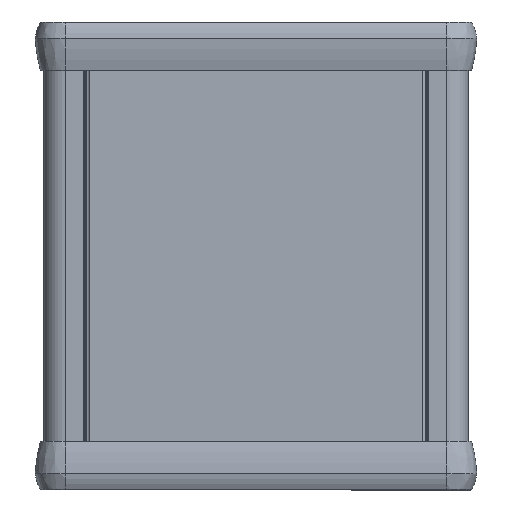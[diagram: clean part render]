
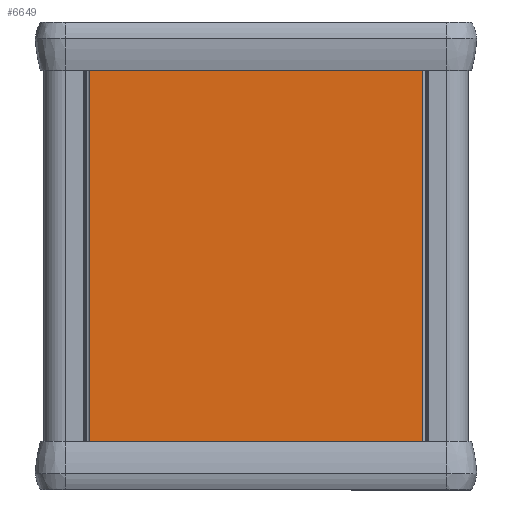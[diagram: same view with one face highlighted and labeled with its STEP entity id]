
A CAD part, front view. The second image highlights one B-rep face of the part: STEP entity #6649.
In plain terms, the highlighted planar face has unit normal (0, -1, 0).
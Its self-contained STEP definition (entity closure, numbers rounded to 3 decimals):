
#221=PLANE('',#7466);
#495=FACE_OUTER_BOUND('',#855,.T.);
#855=EDGE_LOOP('',(#5544,#5545,#5546,#5547));
#1353=LINE('',#11246,#1892);
#1381=LINE('',#11323,#1920);
#1382=LINE('',#11326,#1921);
#1383=LINE('',#11327,#1922);
#1892=VECTOR('',#9124,10.);
#1920=VECTOR('',#9208,10.);
#1921=VECTOR('',#9211,10.);
#1922=VECTOR('',#9212,10.);
#2978=VERTEX_POINT('',#11243);
#2979=VERTEX_POINT('',#11245);
#3000=VERTEX_POINT('',#11321);
#3001=VERTEX_POINT('',#11325);
#3843=EDGE_CURVE('',#2979,#2978,#1353,.T.);
#3882=EDGE_CURVE('',#3000,#2978,#1381,.T.);
#3883=EDGE_CURVE('',#3000,#3001,#1382,.T.);
#3884=EDGE_CURVE('',#3001,#2979,#1383,.T.);
#5544=ORIENTED_EDGE('',*,*,#3883,.T.);
#5545=ORIENTED_EDGE('',*,*,#3884,.T.);
#5546=ORIENTED_EDGE('',*,*,#3843,.T.);
#5547=ORIENTED_EDGE('',*,*,#3882,.F.);
#6649=ADVANCED_FACE('',(#495),#221,.T.);
#7466=AXIS2_PLACEMENT_3D('',#11324,#9209,#9210);
#9124=DIRECTION('',(1.,0.,0.));
#9208=DIRECTION('',(0.,0.,-1.));
#9209=DIRECTION('center_axis',(0.,-1.,0.));
#9210=DIRECTION('ref_axis',(0.,0.,-1.));
#9211=DIRECTION('',(-1.,0.,0.));
#9212=DIRECTION('',(0.,0.,-1.));
#11243=CARTESIAN_POINT('',(30.515,0.,-40.));
#11245=CARTESIAN_POINT('',(-30.515,0.,-40.));
#11246=CARTESIAN_POINT('',(30.515,0.,-40.));
#11321=CARTESIAN_POINT('',(30.515,0.,40.));
#11323=CARTESIAN_POINT('',(30.515,0.,0.));
#11324=CARTESIAN_POINT('Origin',(30.515,0.,
0.));
#11325=CARTESIAN_POINT('',(-30.515,0.,40.));
#11326=CARTESIAN_POINT('',(30.515,0.,40.));
#11327=CARTESIAN_POINT('',(-30.515,0.,0.));
